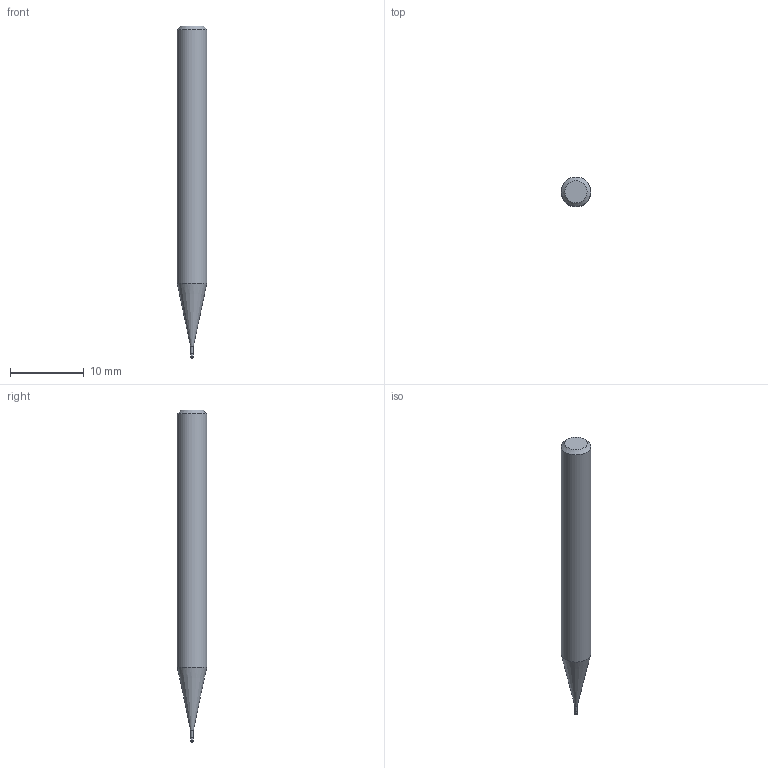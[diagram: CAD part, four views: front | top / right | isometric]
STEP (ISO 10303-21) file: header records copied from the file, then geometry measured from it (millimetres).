
FILE_DESCRIPTION((''),'2;1');
FILE_NAME('C:\Users\nsx150\AppData\Local\Temp\Mastercam 2021\YKS1SUSFZB\TEMP.step','2025-06-23T14:03:14',(''),(''),'STEP Write','Mastercam 2021 ... CNC Software, Inc.','');
FILE_SCHEMA(('AUTOMOTIVE_DESIGN'));
Length unit declared in the file: millimetre
Products named in the file (1): None
Bounding box: 4 x 4 x 45 mm (x, y, z)
Volume: 476.5 mm3; surface area: 508.6 mm2
Topology: 2 solids, 2 shells, 11 faces, 16 edges, 9 vertices
Faces by surface type: plane 4, cylinder 3, cone 3, torus 1
Full cylindrical faces by diameter (mm): 0.285 x1, 0.3 x1, 4 x1
Entity records: 253 total; most frequent: DIRECTION 44, CARTESIAN_POINT 31, AXIS2_PLACEMENT_3D 22, ORIENTED_EDGE 18, EDGE_LOOP 18, STYLED_ITEM 14, ADVANCED_FACE 11, FACE_BOUND 11
